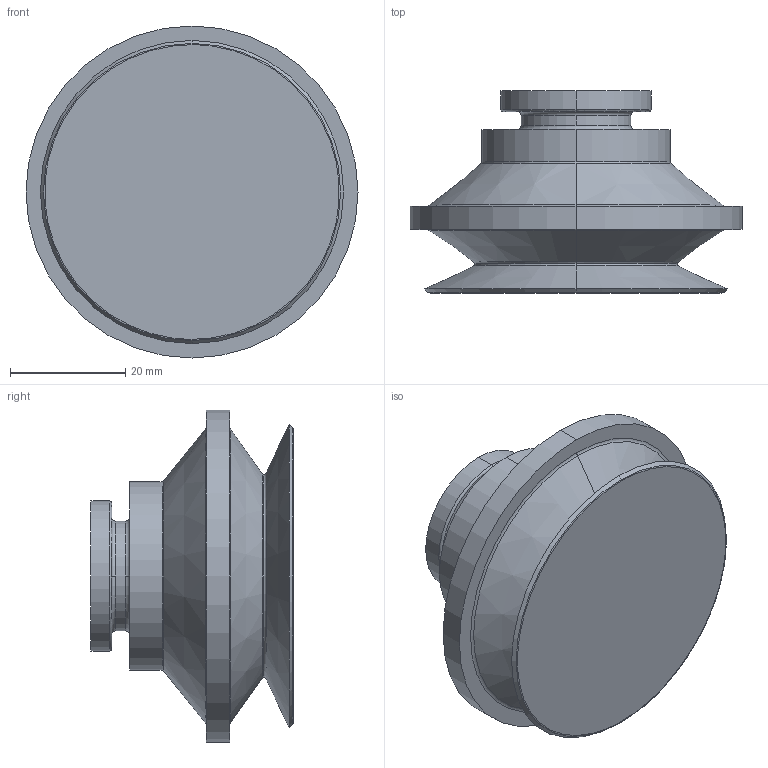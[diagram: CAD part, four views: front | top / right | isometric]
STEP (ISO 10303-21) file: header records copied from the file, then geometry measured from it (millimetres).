
FILE_DESCRIPTION (( 'STEP AP203' ), '1' );
FILE_NAME ('IMC_23.050.054.9.STEP', '2015-05-22T12:14:38', ( '' ), ( '' ), 'SwSTEP 2.0', 'SolidWorks 2010', '' );
FILE_SCHEMA (( 'CONFIG_CONTROL_DESIGN' ));
Length unit declared in the file: millimetre
Products named in the file (1): IMC_23.050.054.9
Bounding box: 57.5 x 35 x 57.5 mm (x, y, z)
Volume: 44315.2 mm3; surface area: 11115.9 mm2
Topology: 1 solids, 1 shells, 53 faces, 112 edges, 68 vertices
Faces by surface type: torus 16, cylinder 14, plane 9, cone 8, bspline 6
Entity records: 2152 total; most frequent: CARTESIAN_POINT 895, DIRECTION 286, ORIENTED_EDGE 224, AXIS2_PLACEMENT_3D 132, EDGE_CURVE 112, CIRCLE 84, VERTEX_POINT 68, EDGE_LOOP 60
